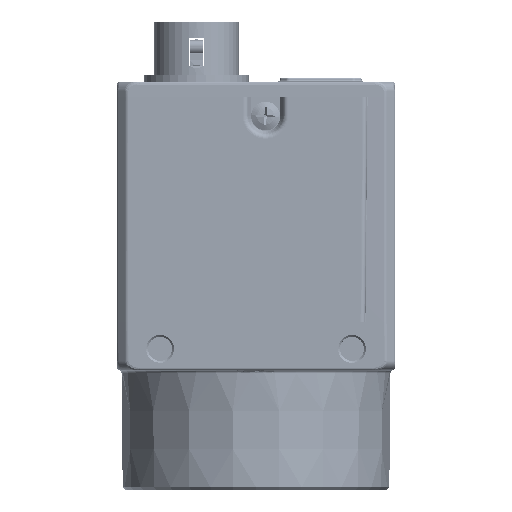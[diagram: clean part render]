
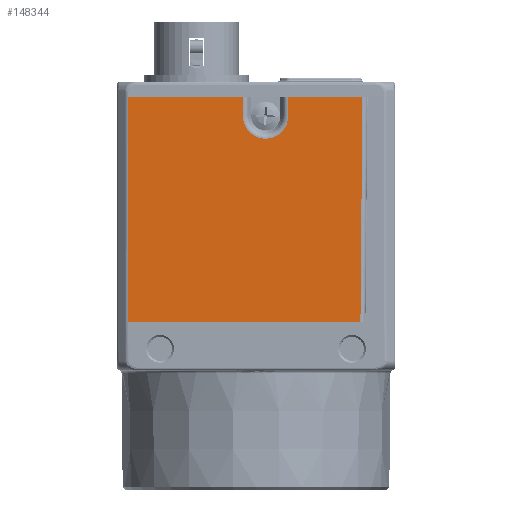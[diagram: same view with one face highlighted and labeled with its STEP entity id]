
A CAD part, left-side view. The second image highlights one B-rep face of the part: STEP entity #148344.
In plain terms, the highlighted planar face has unit normal (-1, 0, 0).
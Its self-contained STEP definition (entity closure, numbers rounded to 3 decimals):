
#54037=DIRECTION('',(0.,-1.,0.));
#54038=VECTOR('',#54037,11.935);
#54039=CARTESIAN_POINT('',(-14.5,13.293,
23.));
#54040=LINE('',#54039,#54038);
#54129=DIRECTION('',(0.,-1.,0.));
#54130=VECTOR('',#54129,7.727);
#54131=CARTESIAN_POINT('',(-14.5,-3.358,23.));
#54132=LINE('',#54131,#54130);
#54137=DIRECTION('',(0.,0.,1.));
#54138=VECTOR('',#54137,23.5);
#54139=CARTESIAN_POINT('',(-14.5,13.293,
-0.5));
#54140=LINE('',#54139,#54138);
#54141=CARTESIAN_POINT('',(-14.5,-1.,21.));
#54142=DIRECTION('',(-1.,0.,0.));
#54143=DIRECTION('',(0.,1.,0.));
#54144=AXIS2_PLACEMENT_3D('',#54141,#54142,#54143);
#54146=DIRECTION('',(0.,0.009,-1.));
#54147=VECTOR('',#54146,23.501);
#54148=CARTESIAN_POINT('',(-14.5,-11.085,
23.));
#54149=LINE('',#54148,#54147);
#54220=DIRECTION('',(0.,-1.,0.));
#54221=VECTOR('',#54220,24.173);
#54222=CARTESIAN_POINT('',(-14.5,13.293,
-0.5));
#54223=LINE('',#54222,#54221);
#55858=CARTESIAN_POINT('',(-14.5,13.293,
23.));
#55880=CARTESIAN_POINT('',(-14.5,13.293,
-0.5));
#59570=DIRECTION('',(0.,0.,1.));
#59571=VECTOR('',#59570,2.);
#59572=CARTESIAN_POINT('',(-14.5,1.358,21.));
#59573=LINE('',#59572,#59571);
#59609=DIRECTION('',(0.,0.,-1.));
#59610=VECTOR('',#59609,2.);
#59611=CARTESIAN_POINT('',(-14.5,-3.358,23.));
#59612=LINE('',#59611,#59610);
#76920=CARTESIAN_POINT('',(-14.5,1.358,21.));
#76921=CARTESIAN_POINT('',(-14.5,-3.358,21.));
#76922=VERTEX_POINT('',#76920);
#76923=VERTEX_POINT('',#76921);
#78591=VERTEX_POINT('',#55880);
#78592=CARTESIAN_POINT('',(-14.5,-10.88,
-0.5));
#78593=VERTEX_POINT('',#78592);
#78620=VERTEX_POINT('',#55858);
#78621=CARTESIAN_POINT('',(-14.5,1.358,23.));
#78622=VERTEX_POINT('',#78621);
#78623=CARTESIAN_POINT('',(-14.5,-3.358,23.));
#78624=CARTESIAN_POINT('',(-14.5,-11.085,
23.));
#78625=VERTEX_POINT('',#78623);
#78626=VERTEX_POINT('',#78624);
#148323=CARTESIAN_POINT('',(-14.5,1.104,11.25));
#148324=DIRECTION('',(1.,0.,0.));
#148325=DIRECTION('',(0.,-1.,0.));
#148326=AXIS2_PLACEMENT_3D('',#148323,#148324,#148325);
#148327=PLANE('',#148326);
#148329=ORIENTED_EDGE('',*,*,#148328,.F.);
#148331=ORIENTED_EDGE('',*,*,#148330,.T.);
#148332=ORIENTED_EDGE('',*,*,#148305,.T.);
#148334=ORIENTED_EDGE('',*,*,#148333,.F.);
#148336=ORIENTED_EDGE('',*,*,#148335,.T.);
#148338=ORIENTED_EDGE('',*,*,#148337,.F.);
#148339=ORIENTED_EDGE('',*,*,#148317,.T.);
#148341=ORIENTED_EDGE('',*,*,#148340,.T.);
#148342=EDGE_LOOP('',(#148329,#148331,#148332,#148334,#148336,#148338,#148339,
#148341));
#148343=FACE_OUTER_BOUND('',#148342,.F.);
#148344=ADVANCED_FACE('',(#148343),#148327,.F.);
#54145=CIRCLE('',#54144,2.358);
#148305=EDGE_CURVE('',#78620,#78622,#54040,.T.);
#148317=EDGE_CURVE('',#78625,#78626,#54132,.T.);
#148328=EDGE_CURVE('',#78591,#78593,#54223,.T.);
#148330=EDGE_CURVE('',#78591,#78620,#54140,.T.);
#148333=EDGE_CURVE('',#76922,#78622,#59573,.T.);
#148335=EDGE_CURVE('',#76922,#76923,#54145,.T.);
#148337=EDGE_CURVE('',#78625,#76923,#59612,.T.);
#148340=EDGE_CURVE('',#78626,#78593,#54149,.T.);
